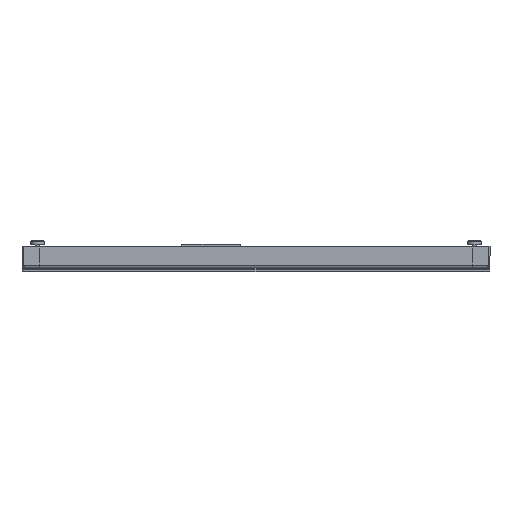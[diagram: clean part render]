
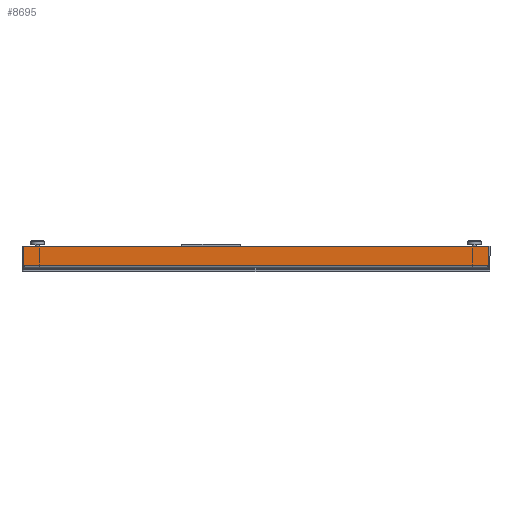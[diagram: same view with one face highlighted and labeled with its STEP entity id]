
A CAD part, front view. The second image highlights one B-rep face of the part: STEP entity #8695.
In plain terms, the highlighted planar face has unit normal (0, -1, 0).
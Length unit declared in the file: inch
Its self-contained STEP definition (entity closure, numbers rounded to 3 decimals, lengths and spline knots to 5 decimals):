
#2781 = VERTEX_POINT ( 'NONE', #11896 ) ;
#3577 = LINE ( 'NONE', #5425, #11324 ) ;
#3694 = ORIENTED_EDGE ( 'NONE', *, *, #23334, .T. ) ;
#4177 = PLANE ( 'NONE',  #24071 ) ;
#4502 = CARTESIAN_POINT ( 'NONE',  ( 0., -30., 0.338 ) ) ;
#4888 = EDGE_CURVE ( 'NONE', #5323, #2781, #15283, .T. ) ;
#5323 = VERTEX_POINT ( 'NONE', #16747 ) ;
#5425 = CARTESIAN_POINT ( 'NONE',  ( 29.81, -30., 2.812 ) ) ;
#5555 = ORIENTED_EDGE ( 'NONE', *, *, #20391, .F. ) ;
#6348 = VECTOR ( 'NONE', #11465, 39.37008 ) ;
#6927 = LINE ( 'NONE', #7352, #6348 ) ;
#7352 = CARTESIAN_POINT ( 'NONE',  ( -29.81, -30., 0. ) ) ;
#7570 = DIRECTION ( 'NONE',  ( 1., 0., 0. ) ) ;
#8695 = ADVANCED_FACE ( 'NONE', ( #14175 ), #4177, .T. ) ;
#9926 = CARTESIAN_POINT ( 'NONE',  ( 0., -30., 0. ) ) ;
#11324 = VECTOR ( 'NONE', #22763, 39.37008 ) ;
#11465 = DIRECTION ( 'NONE',  ( 0., 0., -1. ) ) ;
#11896 = CARTESIAN_POINT ( 'NONE',  ( 29.81, -30., 2.812 ) ) ;
#11904 = DIRECTION ( 'NONE',  ( 0., 0., -1. ) ) ;
#12291 = CARTESIAN_POINT ( 'NONE',  ( -29.81, -30., 0.338 ) ) ;
#14175 = FACE_OUTER_BOUND ( 'NONE', #24294, .T. ) ;
#15283 = LINE ( 'NONE', #24625, #24324 ) ;
#15874 = ORIENTED_EDGE ( 'NONE', *, *, #4888, .F. ) ;
#16747 = CARTESIAN_POINT ( 'NONE',  ( -29.81, -30., 2.812 ) ) ;
#19631 = VERTEX_POINT ( 'NONE', #20538 ) ;
#19843 = DIRECTION ( 'NONE',  ( 1., 0., 0. ) ) ;
#20391 = EDGE_CURVE ( 'NONE', #2781, #19631, #3577, .T. ) ;
#20538 = CARTESIAN_POINT ( 'NONE',  ( 29.81, -30., 0.338 ) ) ;
#21135 = VERTEX_POINT ( 'NONE', #12291 ) ;
#21545 = ORIENTED_EDGE ( 'NONE', *, *, #27369, .T. ) ;
#22763 = DIRECTION ( 'NONE',  ( 0., 0., -1. ) ) ;
#22859 = DIRECTION ( 'NONE',  ( 0., -1., 0. ) ) ;
#22918 = VECTOR ( 'NONE', #19843, 39.37008 ) ;
#23334 = EDGE_CURVE ( 'NONE', #5323, #21135, #6927, .T. ) ;
#23979 = LINE ( 'NONE', #4502, #22918 ) ;
#24071 = AXIS2_PLACEMENT_3D ( 'NONE', #9926, #22859, #11904 ) ;
#24294 = EDGE_LOOP ( 'NONE', ( #15874, #3694, #21545, #5555 ) ) ;
#24324 = VECTOR ( 'NONE', #7570, 39.37008 ) ;
#24625 = CARTESIAN_POINT ( 'NONE',  ( 30., -30., 2.812 ) ) ;
#27369 = EDGE_CURVE ( 'NONE', #21135, #19631, #23979, .T. ) ;
